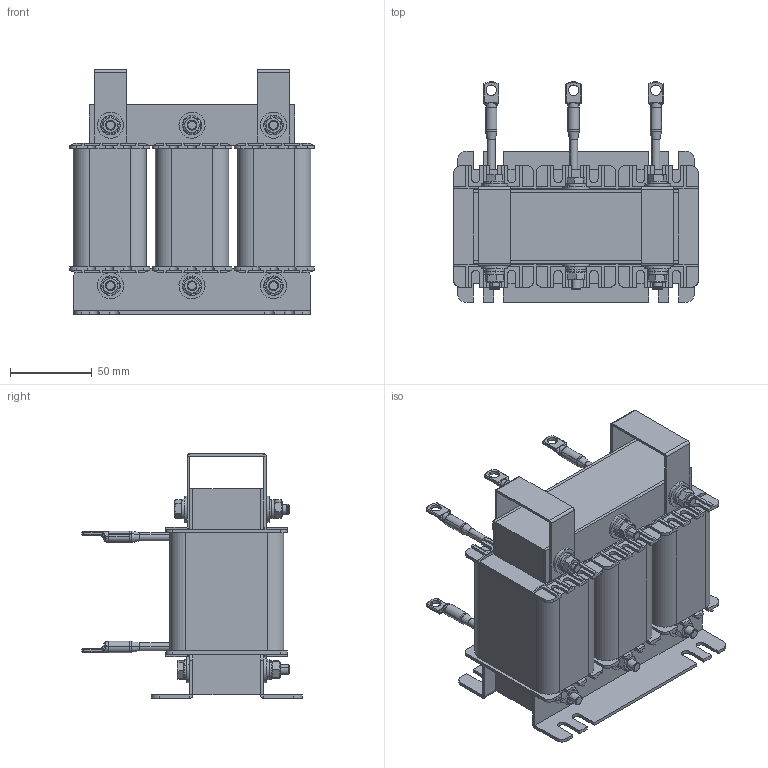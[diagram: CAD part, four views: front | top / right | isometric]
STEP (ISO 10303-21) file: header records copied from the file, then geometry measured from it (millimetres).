
FILE_DESCRIPTION (( 'STEP AP203' ), '1' );
FILE_NAME ('Ñåòåâîé äðîññåëü _ ISF-15_35-4.STEP', '2025-09-16T11:18:17', ( '' ), ( '' ), 'SwSTEP 2.0', 'SolidWorks 2021', '' );
FILE_SCHEMA (( 'CONFIG_CONTROL_DESIGN' ));
Length unit declared in the file: millimetre
Products named in the file (15): Áîëò DIN 933_Œ6å65; 侲膰翴籦鴀_7.5-15; Øàéáà ïðóæèííàÿ DIN 127 (A)_Œ6; Øàéáà ïëîñêàÿ DIN 125 (A)_Œ6; 栫謱毿膻獥15; Ãàéêà DIN 934_Œ6; Ñêîáà òàêåëàæíàÿ_15; 咈櫡_7.5-15; Ñåòåâîé äðîññåëü _ ISF-15_35-4; Ïëàñòèíà ïðèæèìíàÿ_7.5-15; Øàéáà ïëîñêàÿ DIN 9021_Œ6; Êàòóøêà ñ âûâîäàìè_15; 忺覷齆趌15; Èçîëÿòîð êàòóøêè_7.5-15; Âûâîä êàòóøêè_15
Assembly tree (63 placements, depth 3):
  Ñåòåâîé äðîññåëü _ ISF-15_35-4
    咈櫡_7.5-15  x2
    Èçîëÿòîð êàòóøêè_7.5-15  x6
    Êàòóøêà ñ âûâîäàìè_15  x3
      忺覷齆趌15
      Âûâîä êàòóøêè_15
      侲膰翴籦鴀_7.5-15
    Ïëàñòèíà ïðèæèìíàÿ_7.5-15  x2
    Ñêîáà òàêåëàæíàÿ_15  x2
    栫謱毿膻獥15
    Øàéáà ïëîñêàÿ DIN 9021_Œ6  x12
    Øàéáà ïëîñêàÿ DIN 125 (A)_Œ6  x12
    Øàéáà ïðóæèííàÿ DIN 127 (A)_Œ6  x6
    Ãàéêà DIN 934_Œ6  x6
    Áîëò DIN 933_Œ6å65  x6
Bounding box: 150 x 135 x 150 mm (x, y, z)
Volume: 1038930.8 mm3; surface area: 279850.8 mm2
Topology: 70 solids, 70 shells, 1676 faces, 4068 edges, 2490 vertices
Faces by surface type: plane 842, cylinder 474, cone 198, bspline 96, sphere 36, torus 30
Entity records: 14223 total; most frequent: CARTESIAN_POINT 3032, DIRECTION 1778, ORIENTED_EDGE 1668, EDGE_CURVE 834, AXIS2_PLACEMENT_3D 627, LINE 524, VECTOR 524, VERTEX_POINT 523
